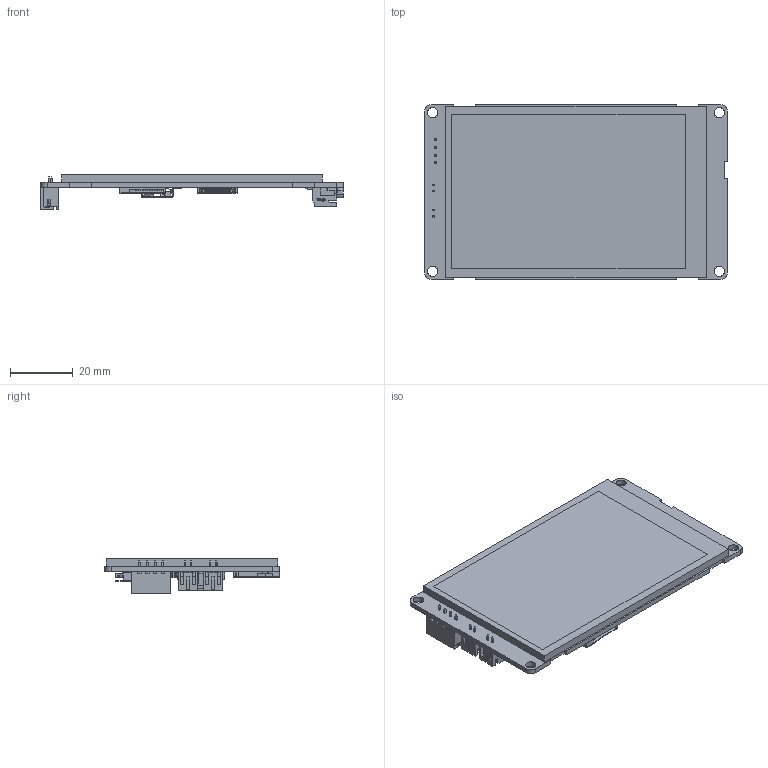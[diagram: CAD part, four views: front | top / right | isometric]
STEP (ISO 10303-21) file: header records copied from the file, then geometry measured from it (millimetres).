
FILE_DESCRIPTION(/* description */ (''),/* implementation_level */ '2;1');
FILE_NAME(/* name */ 'C:\Users\zhaoyunqi\Desktop\方案\终版\3.MA35\MA35-STEP模型.stp',/* time_stamp */ '2025-12-27T18:40:23+08:00',/* author */ ('zhaoyunqi'),/* organization */ (''),/* preprocessor_version */ 'ST-DEVELOPER v18',/* originating_system */ 'Autodesk Inventor 2020',/* authorisation */ '');
FILE_SCHEMA (('AUTOMOTIVE_DESIGN { 1 0 10303 214 3 1 1 }'));
Products named in the file (18): 模型; CR-927; BAT-SMD_MY-927-02~BAT-SMD_MY-927-02~GGM5; FPC-0.50-6P; FPC-SMD_P0.50-6P_LCS-SJ-H2.0~FPC-SMD_P0.50-6P_LCS-SJ-H2.0~GGM5; FPC-0.50-14P; FPC-SMD_14P-P0.50_AFC07-S14FCA-00~FPC-SMD_14P-P0.50_AFC07-S14FCC-00~a
w7c; TF; SIM-SMD_TF110-AG1-004~SIM-SMD_TF110-AG1-004~GGM5; TYPE-C-16P; USB_TYPE-C-16P~USB-C_SMD-TYPE-C-31-M-12~GGM5; XH_4P-P2.50; CONN-SMD_4P-P2.50-WT~CONN-SMD_4P-P2.50-WT~GGM5; XH2.54-4P; CONN-TH_4P-P2.50-XH2.54-4P~CONN-TH_4P-P2.50-XH2.54-4P~GGM5; PCB; XH2.0-2P; CONN-TH_2P-P2.00_HX-2.0MM-2P-ZZ~CONN-TH_2P-P2.00_HX-2.0MM-2P-ZZ~nuVk
Assembly tree (18 placements, depth 3):
  模型
    CR-927
      BAT-SMD_MY-927-02~BAT-SMD_MY-927-02~GGM5
    FPC-0.50-6P
      FPC-SMD_P0.50-6P_LCS-SJ-H2.0~FPC-SMD_P0.50-6P_LCS-SJ-H2.0~GGM5
    FPC-0.50-14P
      FPC-SMD_14P-P0.50_AFC07-S14FCA-00~FPC-SMD_14P-P0.50_AFC07-S14FCC-00~a
w7c
    TF
      SIM-SMD_TF110-AG1-004~SIM-SMD_TF110-AG1-004~GGM5
    TYPE-C-16P
      USB_TYPE-C-16P~USB-C_SMD-TYPE-C-31-M-12~GGM5
    XH_4P-P2.50
      CONN-SMD_4P-P2.50-WT~CONN-SMD_4P-P2.50-WT~GGM5
    XH2.0-2P  x2
      CONN-TH_2P-P2.00_HX-2.0MM-2P-ZZ~CONN-TH_2P-P2.00_HX-2.0MM-2P-ZZ~nuVk
    XH2.54-4P
      CONN-TH_4P-P2.50-XH2.54-4P~CONN-TH_4P-P2.50-XH2.54-4P~GGM5
    PCB
Bounding box: 96.25 x 55.5 x 11.1 mm (x, y, z)
Volume: 20895.2 mm3; surface area: 33861.7 mm2
Topology: 94 solids, 94 shells, 5664 faces, 15355 edges, 10012 vertices
Faces by surface type: plane 3864, bspline 1032, cylinder 662, torus 102, sphere 4
Full cylindrical faces by diameter (mm): 0.511 x2, 0.731 x1, 0.8 x2, 1.5 x2, 3.3 x4
Entity records: 183235 total; most frequent: CARTESIAN_POINT 46041, ORIENTED_EDGE 28898, DIRECTION 24329, EDGE_CURVE 14449, LINE 11153, VECTOR 11153, VERTEX_POINT 9412, AXIS2_PLACEMENT_3D 6588
